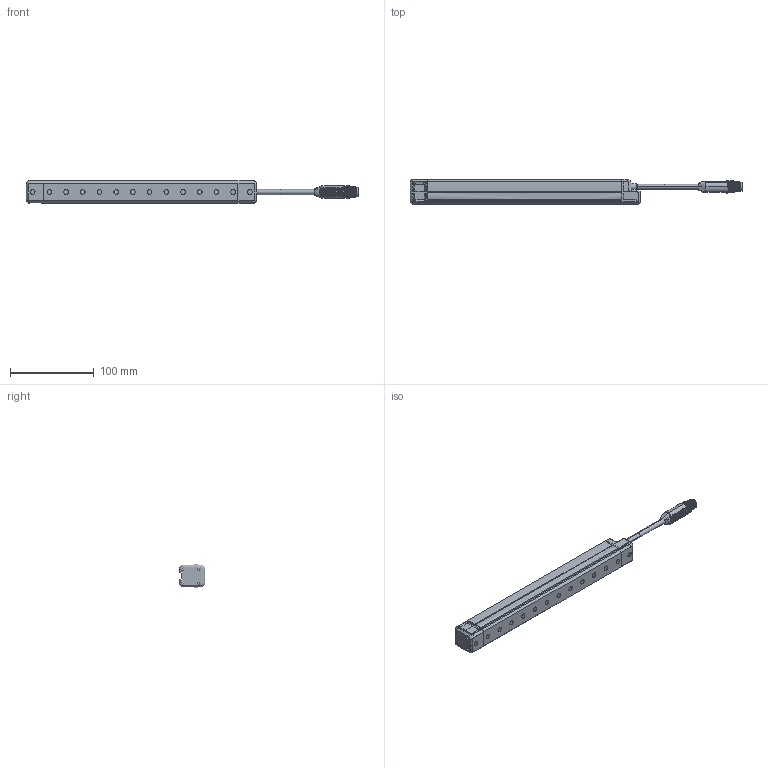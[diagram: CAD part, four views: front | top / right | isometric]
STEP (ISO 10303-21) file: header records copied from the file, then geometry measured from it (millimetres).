
FILE_DESCRIPTION((''),'2;1');
FILE_NAME('EFP-1420_ASM','2022-12-28T08:38:01',('18720616900'),(''),'CREO PARAMETRIC BY PTC INC, 2019010','CREO PARAMETRIC BY PTC INC, 2019010','');
FILE_SCHEMA(('CONFIG_CONTROL_DESIGN'));
Products named in the file (9): EFP-3-_A; EFP-3-_AF; EFP2-0; M26-14; M26-30; _0002; _0001_ASM; EFP-1420_ASM
Assembly tree (14 placements, depth 3):
  EFP-1420_ASM
    EFP-3-_A
    EFP-3-_AF
    EFP-3-_AF
    EFP2-0
    M26-14  x2
    M26-30  x6
    _0001_ASM
      _0002
Bounding box: 397.47 x 30 x 28.01 mm (x, y, z)
Volume: 199272.8 mm3; surface area: 59046.7 mm2
Topology: 13 solids, 649 shells, 2956 faces, 9595 edges, 7333 vertices
Faces by surface type: bspline 1174, plane 715, cone 450, cylinder 390, extrusion 161, torus 60, revolution 4, sphere 2
Entity records: 139438 total; most frequent: CARTESIAN_POINT 81078, ORIENTED_EDGE 11644, DIRECTION 8577, EDGE_CURVE 7779, VERTEX_POINT 6212, VECTOR 3975, LINE 3814, B_SPLINE_CURVE_WITH_KNOTS 3082
